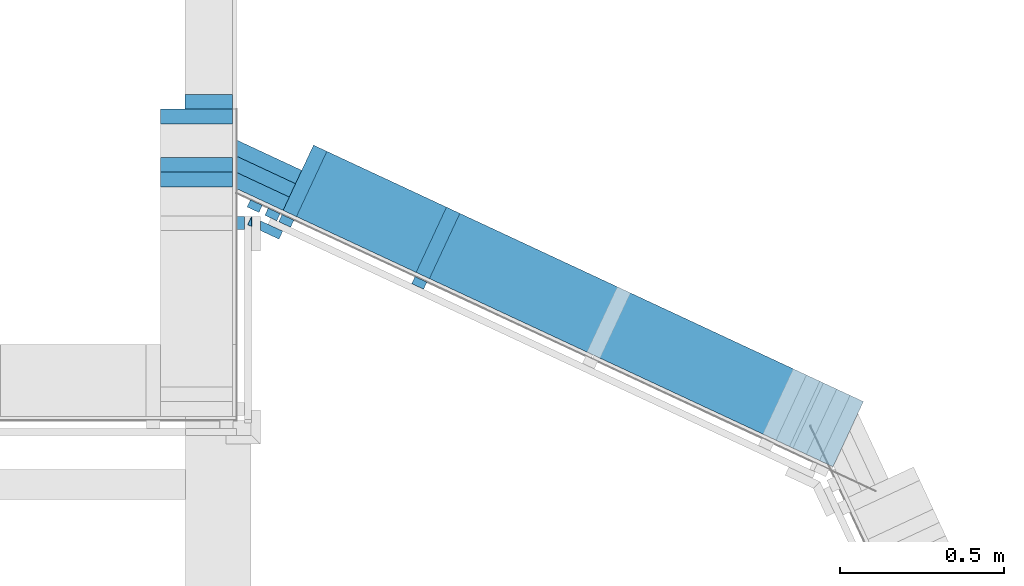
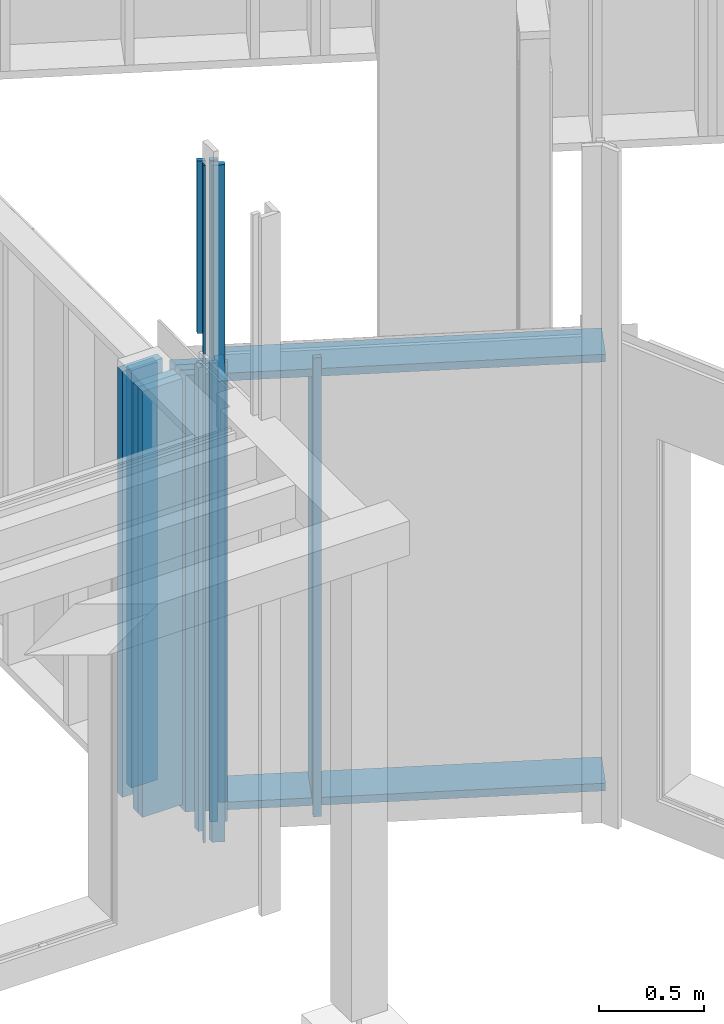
# One storey, part 6 of 34: 20 members.
"""IFC2X3 building model written with IfcOpenShell, lengths in metres."""

from ifc_helpers import new_model, si_unit, direction, frame, origin_with_axes, place, context, subcontext, project, spatial, faceted_brep, material, element, save


model = new_model("IFC2X3")

# Units and contexts
model_context = context("Model", 3, precision=1e-06, world=origin_with_axes(), true_north=direction((0.0, 1.0, 0.0)))
body_context = subcontext(model_context, "Body", "Model", "MODEL_VIEW")
ifc_project = project(units=[si_unit("LENGTHUNIT", "METRE"), si_unit("AREAUNIT", "SQUARE_METRE"), si_unit("VOLUMEUNIT", "CUBIC_METRE"), si_unit("PLANEANGLEUNIT", "RADIAN")], contexts=[model_context])

# Site, building, storey
site_placement = place(None, origin_with_axes())
site = spatial("IfcSite", under=ifc_project, at=site_placement, CompositionType="ELEMENT")
building_placement = place(site_placement, origin_with_axes())
building = spatial("IfcBuilding", under=site, at=building_placement, Name="Building 1", CompositionType="ELEMENT")
storey_placement = place(building_placement, origin_with_axes())
storey = spatial("IfcBuildingStorey", under=building, at=storey_placement, Name="Rez de chaussée", CompositionType="ELEMENT", Elevation=0.0)

# Members
ifc_material_1 = material(Name="Epicéa C24")
member_1_placement = place(storey_placement, frame((7.3235733, 1.6429835, 2.54), z_axis=(-0.4226183, -0.9063078, 0.0), x_axis=(0.0, 0.0, -1.0)))
element("IfcMember", 1, at=member_1_placement, inside=storey, material=ifc_material_1, Name="Montant", context=body_context, shape_type="Brep", body=[
    faceted_brep([(2.45, -0.0225, -0.11), (2.45, -0.0225, 0.11), (0.0, -0.0225, 0.11), (0.0, -0.0225, -0.11), (2.45, 0.0225, -0.11), (0.0, 0.0225, -0.11), (2.45, 0.0225, 0.11), (0.0, 0.0225, 0.11)], [[[0, 1, 2, 3]], [[4, 0, 3, 5]], [[6, 4, 5, 7]], [[1, 6, 7, 2]], [[0, 4, 6, 1]], [[2, 7, 5, 3]]]),
])
ifc_material_2 = material(Name="NH II")
member_2_placement = place(storey_placement, frame((6.754, 1.7083169, -0.08), z_axis=(0.9063078, -0.4226183, 0.0), x_axis=(0.0, 0.0, 1.0)))
element("IfcMember", 2, at=member_2_placement, inside=storey, material=ifc_material_2, Name="Couvre joint", context=body_context, shape_type="Brep", body=[
    faceted_brep([(3.9386408, -0.0135, -0.0062952), (3.9386408, 0.0135, 0.0062952), (0.0, 0.0135, 0.0062952), (0.0, -0.0135, -0.0062952), (3.9386408, 0.0135, -0.0062952), (0.0, 0.0135, -0.0062952)], [[[0, 1, 2, 3]], [[1, 0, 4]], [[3, 2, 5]], [[0, 3, 5, 4]], [[2, 1, 4, 5]]]),
])
member_3_placement = place(storey_placement, frame((6.8601607, 1.7101204, 2.675), z_axis=(-0.4226183, -0.9063078, 0.0), x_axis=(0.0, 0.0, -1.0)))
element("IfcMember", 3, at=member_3_placement, inside=storey, material=ifc_material_1, Name="latte 27/40", context=body_context, shape_type="Brep", body=[
    faceted_brep([(2.67, -0.02, 0.012), (0.0, -0.02, 0.012), (0.0, -0.02, -0.012), (2.67, -0.02, -0.012), (0.0, 0.02, -0.012), (2.67, 0.02, -0.012), (0.0, 0.02, 0.012), (2.67, 0.02, 0.012)], [[[0, 1, 2, 3]], [[2, 4, 5, 3]], [[6, 7, 5, 4]], [[6, 1, 0, 7]], [[1, 6, 4, 2]], [[7, 0, 3, 5]]]),
])
member_4_placement = place(storey_placement, frame((6.8968222, 1.8419808, 0.0675), z_axis=(0.4226183, 0.9063078, 0.0), x_axis=(0.9063078, -0.4226183, 0.0)))
element("IfcMember", 4, at=member_4_placement, inside=storey, material=ifc_material_1, Name="Lisse basse", context=body_context, shape_type="Brep", body=[
    faceted_brep([(1.853864, -0.0225, -0.11), (0.0, -0.0225, -0.11), (0.0, 0.0225, -0.11), (1.853864, 0.0225, -0.11), (1.853864, 0.0225, 0.11), (1.853864, -0.0225, 0.11), (0.0, -0.0225, 0.11), (0.0, 0.0225, 0.11)], [[[0, 1, 2, 3]], [[4, 5, 0, 3]], [[5, 6, 1, 0]], [[7, 4, 3, 2]], [[6, 5, 4, 7]], [[6, 7, 2, 1]]]),
])
member_5_placement = place(storey_placement, frame((6.8093758, 1.6824947, -0.08), z_axis=(0.9063078, -0.4226183, 0.0), x_axis=(0.0, 0.0, 1.0)))
element("IfcMember", 5, at=member_5_placement, inside=storey, material=ifc_material_2, Name="Couvre joint", context=body_context, shape_type="Brep", body=[
    faceted_brep([(3.9386408, 0.0135, 0.0376044), (0.0, 0.0135, 0.0376044), (0.0, -0.0135, 0.0376044), (3.9386408, -0.0135, 0.0376044), (3.9386408, -0.0135, -0.0376044), (3.9386408, 0.0135, -0.0250141), (0.0, -0.0135, -0.0376044), (0.0, 0.0135, -0.0250141)], [[[0, 1, 2, 3]], [[4, 5, 0, 3]], [[6, 4, 3, 2]], [[5, 7, 1, 0]], [[7, 6, 2, 1]], [[7, 5, 4, 6]]]),
])
member_6_placement = place(storey_placement, frame((6.721, 1.7032125, 2.703), z_axis=(1.0, 0.0, 0.0), x_axis=(0.0, 0.0, -1.0)))
element("IfcMember", 6, at=member_6_placement, inside=storey, material=ifc_material_1, Name="latte 27/40", context=body_context, shape_type="Brep", body=[
    faceted_brep([(0.0, -0.02, 0.012), (0.0, 0.02, 0.012), (0.0, 0.02, -0.012), (0.0, -0.02, -0.012), (2.698, 0.02, -0.012), (2.698, -0.02, -0.012), (2.698, 0.02, 0.012), (2.698, -0.02, 0.012)], [[[0, 1, 2, 3]], [[3, 2, 4, 5]], [[2, 1, 6, 4]], [[1, 0, 7, 6]], [[6, 7, 5, 4]], [[0, 3, 5, 7]]]),
])
member_7_placement = place(storey_placement, frame((6.586, 1.8367542, 2.568), z_axis=(1.0, 0.0, 0.0), x_axis=(0.0, 0.0, -1.0)))
element("IfcMember", 7, at=member_7_placement, inside=storey, material=ifc_material_1, Name="Montant", context=body_context, shape_type="Brep", body=[
    faceted_brep([(2.478, -0.0225, -0.11), (2.478, 0.0225, -0.11), (2.478, 0.0225, 0.11), (2.478, -0.0225, 0.11), (0.0, -0.0225, 0.11), (0.0, -0.0225, -0.11), (0.0, 0.0225, -0.11), (0.0, 0.0225, 0.11)], [[[0, 1, 2, 3]], [[0, 3, 4, 5]], [[1, 0, 5, 6]], [[2, 1, 6, 7]], [[3, 2, 7, 4]], [[4, 7, 6, 5]]]),
])
member_8_placement = place(storey_placement, frame((6.6235, 2.0739744, 2.52), z_axis=(1.0, 0.0, 0.0), x_axis=(0.0, 0.0, -1.0)))
element("IfcMember", 8, at=member_8_placement, inside=storey, material=ifc_material_1, Name="Montant", context=body_context, shape_type="Brep", body=[
    faceted_brep([(2.43, -0.0225, 0.0725), (2.43, 0.0225, 0.0725), (0.0, 0.0225, 0.0725), (0.0, -0.0225, 0.0725), (2.43, -0.0225, -0.0725), (2.43, 0.0225, -0.0725), (0.0, -0.0225, -0.0725), (0.0, 0.0225, -0.0725)], [[[0, 1, 2, 3]], [[4, 5, 1, 0]], [[4, 0, 3, 6]], [[5, 4, 6, 7]], [[1, 5, 7, 2]], [[3, 2, 7, 6]]]),
])
member_9_placement = place(storey_placement, frame((6.8179464, 1.7298052, 3.8536408), z_axis=(-0.4226183, -0.9063078, 0.0), x_axis=(0.0, 0.0, -1.0)))
element("IfcMember", 9, at=member_9_placement, inside=storey, material=ifc_material_1, Name="latte chantier", context=body_context, shape_type="Brep", body=[
    faceted_brep([(1.0036408, -0.02, -0.012), (1.0036408, -0.02, 0.012), (0.0, -0.02, 0.012), (0.0, -0.02, -0.012), (1.0036408, 0.02, -0.012), (0.0, 0.02, -0.012), (1.0036408, 0.02, 0.012), (0.0, 0.02, 0.012)], [[[0, 1, 2, 3]], [[4, 0, 3, 5]], [[6, 4, 5, 7]], [[1, 6, 7, 2]], [[4, 6, 1, 0]], [[2, 7, 5, 3]]]),
])
member_10_placement = place(storey_placement, frame((6.7635679, 1.7551623, 2.675), z_axis=(-0.4226183, -0.9063078, 0.0), x_axis=(0.0, 0.0, -1.0)))
element("IfcMember", 10, at=member_10_placement, inside=storey, material=ifc_material_1, Name="latte chantier", context=body_context, shape_type="Brep", body=[
    faceted_brep([(2.67, -0.02, 0.012), (0.0, -0.02, 0.012), (0.0, -0.02, -0.012), (2.67, -0.02, -0.012), (0.0, 0.02, -0.012), (2.67, 0.02, -0.012), (0.0, 0.02, 0.012), (2.67, 0.02, 0.012)], [[[0, 1, 2, 3]], [[2, 4, 5, 3]], [[6, 7, 5, 4]], [[6, 1, 0, 7]], [[1, 6, 4, 2]], [[7, 0, 3, 5]]]),
])
member_11_placement = place(storey_placement, frame((6.9172142, 1.8324719, 2.54), z_axis=(-0.4226183, -0.9063078, 0.0), x_axis=(0.0, 0.0, -1.0)))
element("IfcMember", 11, at=member_11_placement, inside=storey, material=ifc_material_1, Name="Montant", context=body_context, shape_type="Brep", body=[
    faceted_brep([(2.45, -0.0225, -0.11), (2.45, -0.0225, 0.11), (0.0, -0.0225, 0.11), (0.0, -0.0225, -0.11), (2.45, 0.0225, -0.11), (0.0, 0.0225, -0.11), (2.45, 0.0225, 0.11), (0.0, 0.0225, 0.11)], [[[0, 1, 2, 3]], [[4, 0, 3, 5]], [[6, 4, 5, 7]], [[1, 6, 7, 2]], [[0, 4, 6, 1]], [[2, 7, 5, 3]]]),
])
member_12_placement = place(storey_placement, frame((6.586, 2.0289744, 2.568), z_axis=(1.0, 0.0, 0.0), x_axis=(0.0, 0.0, -1.0)))
element("IfcMember", 12, at=member_12_placement, inside=storey, material=ifc_material_1, Name="Montant", context=body_context, shape_type="Brep", body=[
    faceted_brep([(2.478, -0.0225, -0.11), (2.478, 0.0225, -0.11), (2.478, 0.0225, 0.11), (2.478, -0.0225, 0.11), (0.0, -0.0225, 0.11), (0.0, -0.0225, -0.11), (0.0, 0.0225, -0.11), (0.0, 0.0225, 0.11)], [[[0, 1, 2, 3]], [[0, 3, 4, 5]], [[1, 0, 5, 6]], [[2, 1, 6, 7]], [[3, 2, 7, 4]], [[4, 7, 6, 5]]]),
])
member_13_placement = place(storey_placement, frame((6.8179464, 1.7298052, 2.675), z_axis=(-0.4226183, -0.9063078, 0.0), x_axis=(0.0, 0.0, -1.0)))
element("IfcMember", 13, at=member_13_placement, inside=storey, material=ifc_material_1, Name="latte chantier", context=body_context, shape_type="Brep", body=[
    faceted_brep([(2.67, -0.02, 0.012), (0.0, -0.02, 0.012), (0.0, -0.02, -0.012), (2.67, -0.02, -0.012), (0.0, 0.02, -0.012), (2.67, 0.02, -0.012), (0.0, 0.02, 0.012), (2.67, 0.02, 0.012)], [[[0, 1, 2, 3]], [[2, 4, 5, 3]], [[6, 7, 5, 4]], [[6, 1, 0, 7]], [[1, 6, 4, 2]], [[7, 0, 3, 5]]]),
])
member_14_placement = place(storey_placement, frame((6.788676, 1.8455167, 0.045), z_axis=(-0.9063078, 0.4226183, 0.0), x_axis=(0.0, 0.0, 1.0)))
element("IfcMember", 14, at=member_14_placement, inside=storey, material=ifc_material_1, Name="Montant", context=body_context, shape_type="Brep", body=[
    faceted_brep([(0.0, 0.0225, 0.0995081), (2.54, 0.0225, 0.0995081), (2.54, 0.0225, -0.0995081), (0.0, 0.0225, -0.0995081), (2.54, -0.0225, -0.0995081), (0.0, -0.0225, -0.0995081), (2.54, -0.0225, 0.0785242), (0.0, -0.0225, 0.0785242)], [[[0, 1, 2, 3]], [[3, 2, 4, 5]], [[6, 7, 5, 4]], [[7, 0, 3, 5]], [[6, 1, 0, 7]], [[1, 6, 4, 2]]]),
])
member_15_placement = place(storey_placement, frame((6.8968222, 1.8419808, 2.5625), z_axis=(0.4226183, 0.9063078, 0.0), x_axis=(0.9063078, -0.4226183, 0.0)))
element("IfcMember", 15, at=member_15_placement, inside=storey, material=ifc_material_1, Name="Montant", context=body_context, shape_type="Brep", body=[
    faceted_brep([(1.853864, -0.0225, -0.11), (0.0, -0.0225, -0.11), (0.0, 0.0225, -0.11), (1.853864, 0.0225, -0.11), (1.853864, 0.0225, 0.11), (1.853864, -0.0225, 0.11), (0.0, -0.0225, 0.11), (0.0, 0.0225, 0.11)], [[[0, 1, 2, 3]], [[4, 5, 0, 3]], [[5, 6, 1, 0]], [[7, 4, 3, 2]], [[6, 5, 4, 7]], [[6, 7, 2, 1]]]),
])
member_16_placement = place(storey_placement, frame((7.2665199, 1.520632, 2.675), z_axis=(-0.4226183, -0.9063078, 0.0), x_axis=(0.0, 0.0, -1.0)))
element("IfcMember", 16, at=member_16_placement, inside=storey, material=ifc_material_1, Name="latte 27/40", context=body_context, shape_type="Brep", body=[
    faceted_brep([(2.67, -0.02, 0.012), (0.0, -0.02, 0.012), (0.0, -0.02, -0.012), (2.67, -0.02, -0.012), (0.0, 0.02, -0.012), (2.67, 0.02, -0.012), (0.0, 0.02, 0.012), (2.67, 0.02, 0.012)], [[[0, 1, 2, 3]], [[2, 4, 5, 3]], [[6, 7, 5, 4]], [[6, 1, 0, 7]], [[1, 6, 4, 2]], [[7, 0, 3, 5]]]),
])
member_17_placement = place(storey_placement, frame((6.7635679, 1.7551623, 3.8536408), z_axis=(-0.4226183, -0.9063078, 0.0), x_axis=(0.0, 0.0, -1.0)))
element("IfcMember", 17, at=member_17_placement, inside=storey, material=ifc_material_1, Name="latte chantier", context=body_context, shape_type="Brep", body=[
    faceted_brep([(1.0036408, -0.02, -0.012), (1.0036408, -0.02, 0.012), (0.0, -0.02, 0.012), (0.0, -0.02, -0.012), (1.0036408, 0.02, -0.012), (0.0, 0.02, -0.012), (1.0036408, 0.02, 0.012), (0.0, 0.02, 0.012)], [[[0, 1, 2, 3]], [[4, 0, 3, 5]], [[6, 4, 5, 7]], [[1, 6, 7, 2]], [[4, 6, 1, 0]], [[2, 7, 5, 3]]]),
])
member_18_placement = place(storey_placement, frame((6.7981849, 1.8907346, 0.045), z_axis=(-0.9063078, 0.4226183, 0.0), x_axis=(0.0, 0.0, 1.0)))
element("IfcMember", 18, at=member_18_placement, inside=storey, material=ifc_material_1, Name="Montant", context=body_context, shape_type="Brep", body=[
    faceted_brep([(0.0, 0.0225, 0.11), (2.54, 0.0225, 0.11), (2.54, 0.0225, -0.11), (0.0, 0.0225, -0.11), (2.54, -0.0225, -0.11), (0.0, -0.0225, -0.11), (2.54, -0.0225, 0.0890162), (0.0, -0.0225, 0.0890162)], [[[0, 1, 2, 3]], [[3, 2, 4, 5]], [[6, 7, 5, 4]], [[6, 1, 0, 7]], [[1, 6, 4, 2]], [[7, 0, 3, 5]]]),
])
member_19_placement = place(storey_placement, frame((6.7791671, 1.8002988, 0.045), z_axis=(-0.9063078, 0.4226183, 0.0), x_axis=(0.0, 0.0, 1.0)))
element("IfcMember", 19, at=member_19_placement, inside=storey, material=ifc_material_1, Name="Montant", context=body_context, shape_type="Brep", body=[
    faceted_brep([(0.0, 0.0225, 0.0890162), (2.54, 0.0225, 0.0890162), (2.54, 0.0225, -0.0890162), (0.0, 0.0225, -0.0890162), (2.54, -0.0225, -0.0890162), (0.0, -0.0225, -0.0890162), (2.54, -0.0225, 0.0680323), (0.0, -0.0225, 0.0680323)], [[[0, 1, 2, 3]], [[3, 2, 4, 5]], [[6, 7, 5, 4]], [[7, 0, 3, 5]], [[6, 1, 0, 7]], [[1, 6, 4, 2]]]),
])
member_20_placement = place(storey_placement, frame((6.586, 1.8817542, 2.568), z_axis=(1.0, 0.0, 0.0), x_axis=(0.0, 0.0, -1.0)))
element("IfcMember", 20, at=member_20_placement, inside=storey, material=ifc_material_1, Name="Montant", context=body_context, shape_type="Brep", body=[
    faceted_brep([(2.478, -0.0225, -0.11), (2.478, 0.0225, -0.11), (2.478, 0.0225, 0.11), (2.478, -0.0225, 0.11), (0.0, -0.0225, 0.11), (0.0, -0.0225, -0.11), (0.0, 0.0225, -0.11), (0.0, 0.0225, 0.11)], [[[0, 1, 2, 3]], [[0, 3, 4, 5]], [[1, 0, 5, 6]], [[2, 1, 6, 7]], [[3, 2, 7, 4]], [[4, 7, 6, 5]]]),
])

save(model, "model.ifc")
